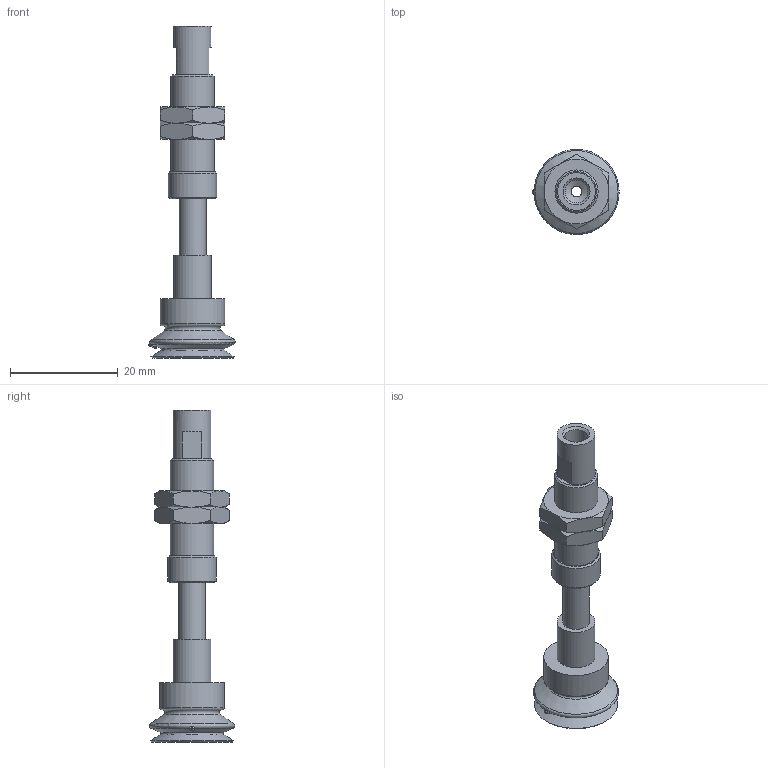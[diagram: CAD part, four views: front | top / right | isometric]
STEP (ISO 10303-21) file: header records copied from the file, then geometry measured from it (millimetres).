
FILE_DESCRIPTION(('STEP AP203'),'1');
FILE_NAME('-SPE.stp','2025-04-25T02:38:22',(' '),(' '),'Spatial InterOp 3D',' ',' ');
FILE_SCHEMA(('CONFIG_CONTROL_DESIGN'));
Length unit declared in the file: millimetre
Products named in the file (7): BNABPJTS-15-10-※-SPE; ZIG; BODY; NUT; BPJG-15-_; TN-PF-15-M5
Assembly tree (6 placements, depth 2):
  BNABPJTS-15-10-※-SPE
    ZIG
    BODY
    NUT
    NUT
    BPJG-15-_
    TN-PF-15-M5
Bounding box: 15.99 x 15.78 x 61.5 mm (x, y, z)
Volume: 3187.6 mm3; surface area: 4475.2 mm2
Topology: 6 solids, 6 shells, 129 faces, 275 edges, 165 vertices
Faces by surface type: plane 45, cone 45, cylinder 20, torus 9, bspline 6, sphere 4
Full cylindrical faces by diameter (mm): 2 x1, 2.5 x1, 4 x2, 4.2 x2, 4.6 x1, 5 x3, 5.2 x1, 7 x2, 7.25 x2, 7.9 x1, 8 x2, 9 x1, 12 x1
Entity records: 3590 total; most frequent: CARTESIAN_POINT 775, DIRECTION 528, ORIENTED_EDGE 428, AXIS2_PLACEMENT_3D 240, EDGE_CURVE 214, EDGE_LOOP 195, FACE_OUTER_BOUND 156, VERTEX_POINT 151
